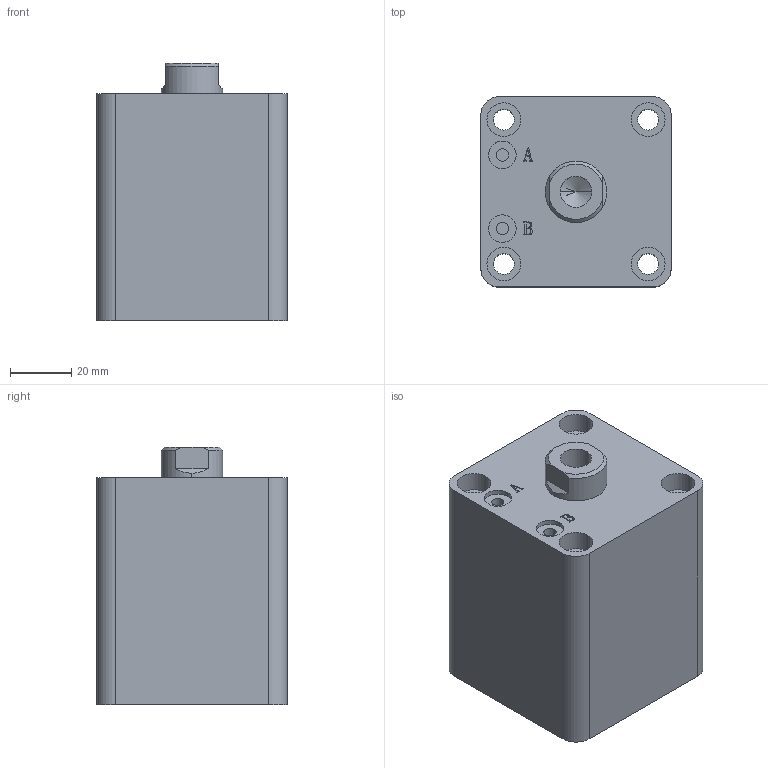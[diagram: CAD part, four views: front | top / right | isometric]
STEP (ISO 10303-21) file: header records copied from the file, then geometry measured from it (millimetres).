
FILE_DESCRIPTION (( 'STEP AP203' ), '1' );
FILE_NAME ('HTB-SDMA32-20N.STEP', '2019-10-07T11:38:50', ( '微软用户' ), ( '微软中国' ), 'SwSTEP 2.0', 'SolidWorks 2012', '' );
FILE_SCHEMA (( 'CONFIG_CONTROL_DESIGN' ));
Length unit declared in the file: millimetre
Products named in the file (3): HTB-SDMA32-20N; HTB-SDMA32-20N活塞杆; HTB-SDMA32-20掛极
Assembly tree (2 placements, depth 2):
  HTB-SDMA32-20N
    HTB-SDMA32-20掛极
    HTB-SDMA32-20N活塞杆
Bounding box: 62 x 62 x 84 mm (x, y, z)
Volume: 259574.3 mm3; surface area: 46171.8 mm2
Topology: 2 solids, 2 shells, 137 faces, 331 edges, 217 vertices
Faces by surface type: plane 65, cylinder 46, bspline 16, torus 6, cone 4
Entity records: 5070 total; most frequent: CARTESIAN_POINT 1576, ORIENTED_EDGE 658, DIRECTION 647, EDGE_CURVE 329, AXIS2_PLACEMENT_3D 232, VERTEX_POINT 217, VECTOR 183, LINE 183
